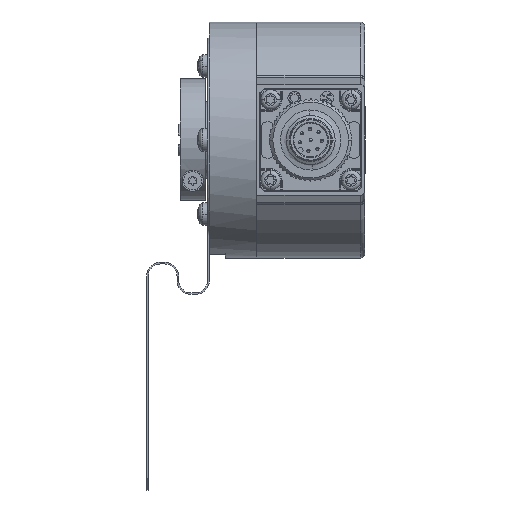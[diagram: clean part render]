
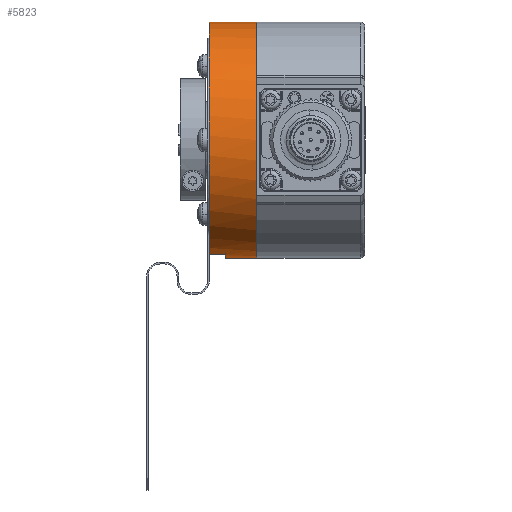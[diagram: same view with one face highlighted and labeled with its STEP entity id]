
A CAD part, front view. The second image highlights one B-rep face of the part: STEP entity #5823.
In plain terms, the highlighted cylindrical face has radius 29 mm (diameter 58 mm), a partial arc.
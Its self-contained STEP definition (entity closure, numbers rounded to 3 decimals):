
#694 = CARTESIAN_POINT ( 'NONE',  ( -3.622, 18.423, -28.142 ) ) ;
#1954 = AXIS2_PLACEMENT_3D ( 'NONE', #26619, #6805, #23365 ) ;
#2282 = CARTESIAN_POINT ( 'NONE',  ( 0.378, 25.423, 0. ) ) ;
#3174 = LINE ( 'NONE', #39992, #21130 ) ;
#4277 = CARTESIAN_POINT ( 'NONE',  ( -3.622, 25.423, 0. ) ) ;
#5441 = CARTESIAN_POINT ( 'NONE',  ( 0.378, 25.423, -29. ) ) ;
#5647 = VECTOR ( 'NONE', #21926, 1000. ) ;
#5823 = ADVANCED_FACE ( 'NONE', ( #15229 ), #43936, .T. ) ;
#6547 = VERTEX_POINT ( 'NONE', #19962 ) ;
#6805 = DIRECTION ( 'NONE',  ( 1., 0., 0. ) ) ;
#6811 = CARTESIAN_POINT ( 'NONE',  ( 8.068, 25.423, 0. ) ) ;
#7273 = CARTESIAN_POINT ( 'NONE',  ( 8.068, 18.423, -28.142 ) ) ;
#8076 = ORIENTED_EDGE ( 'NONE', *, *, #46618, .F. ) ;
#9125 = CIRCLE ( 'NONE', #41982, 29. ) ;
#10267 = VERTEX_POINT ( 'NONE', #694 ) ;
#10415 = VECTOR ( 'NONE', #35824, 1000. ) ;
#10478 = EDGE_CURVE ( 'NONE', #21127, #52170, #9125, .T. ) ;
#10719 = ORIENTED_EDGE ( 'NONE', *, *, #10478, .T. ) ;
#11414 = DIRECTION ( 'NONE',  ( 0., 0., -1. ) ) ;
#12268 = ORIENTED_EDGE ( 'NONE', *, *, #15326, .F. ) ;
#14192 = AXIS2_PLACEMENT_3D ( 'NONE', #4277, #33535, #42753 ) ;
#14629 = CARTESIAN_POINT ( 'NONE',  ( -3.622, 25.423, 29. ) ) ;
#15229 = FACE_OUTER_BOUND ( 'NONE', #23206, .T. ) ;
#15326 = EDGE_CURVE ( 'NONE', #16522, #6547, #3174, .T. ) ;
#16522 = VERTEX_POINT ( 'NONE', #14629 ) ;
#19962 = CARTESIAN_POINT ( 'NONE',  ( 8.068, 25.423, 29. ) ) ;
#20081 = CARTESIAN_POINT ( 'NONE',  ( 0.378, 18.423, -28.142 ) ) ;
#20811 = VERTEX_POINT ( 'NONE', #29805 ) ;
#21127 = VERTEX_POINT ( 'NONE', #20081 ) ;
#21130 = VECTOR ( 'NONE', #22997, 1000. ) ;
#21926 = DIRECTION ( 'NONE',  ( 1., 0., 0. ) ) ;
#22071 = CIRCLE ( 'NONE', #42755, 29. ) ;
#22093 = DIRECTION ( 'NONE',  ( 0., 0., 1. ) ) ;
#22997 = DIRECTION ( 'NONE',  ( 1., 0., 0. ) ) ;
#23206 = EDGE_LOOP ( 'NONE', ( #12268, #41776, #8076, #10719, #29483, #31533 ) ) ;
#23365 = DIRECTION ( 'NONE',  ( 0., 0., -1. ) ) ;
#25702 = CARTESIAN_POINT ( 'NONE',  ( 8.068, 25.423, -29. ) ) ;
#26619 = CARTESIAN_POINT ( 'NONE',  ( 8.068, 25.423, 0. ) ) ;
#28827 = CIRCLE ( 'NONE', #14192, 29. ) ;
#29096 = EDGE_CURVE ( 'NONE', #52170, #20811, #46518, .T. ) ;
#29483 = ORIENTED_EDGE ( 'NONE', *, *, #29096, .T. ) ;
#29775 = LINE ( 'NONE', #7273, #10415 ) ;
#29805 = CARTESIAN_POINT ( 'NONE',  ( 8.068, 25.423, -29. ) ) ;
#31533 = ORIENTED_EDGE ( 'NONE', *, *, #46432, .F. ) ;
#32485 = DIRECTION ( 'NONE',  ( 1., 0., 0. ) ) ;
#33535 = DIRECTION ( 'NONE',  ( 1., 0., 0. ) ) ;
#35824 = DIRECTION ( 'NONE',  ( -1., 0., 0. ) ) ;
#39992 = CARTESIAN_POINT ( 'NONE',  ( 8.068, 25.423, 29. ) ) ;
#41776 = ORIENTED_EDGE ( 'NONE', *, *, #45620, .T. ) ;
#41982 = AXIS2_PLACEMENT_3D ( 'NONE', #2282, #42354, #22093 ) ;
#42354 = DIRECTION ( 'NONE',  ( 1., 0., 0. ) ) ;
#42753 = DIRECTION ( 'NONE',  ( 0., 0., -1. ) ) ;
#42755 = AXIS2_PLACEMENT_3D ( 'NONE', #6811, #32485, #11414 ) ;
#43936 = CYLINDRICAL_SURFACE ( 'NONE', #1954, 29. ) ;
#45620 = EDGE_CURVE ( 'NONE', #16522, #10267, #28827, .T. ) ;
#46432 = EDGE_CURVE ( 'NONE', #6547, #20811, #22071, .T. ) ;
#46518 = LINE ( 'NONE', #25702, #5647 ) ;
#46618 = EDGE_CURVE ( 'NONE', #21127, #10267, #29775, .T. ) ;
#52170 = VERTEX_POINT ( 'NONE', #5441 ) ;
